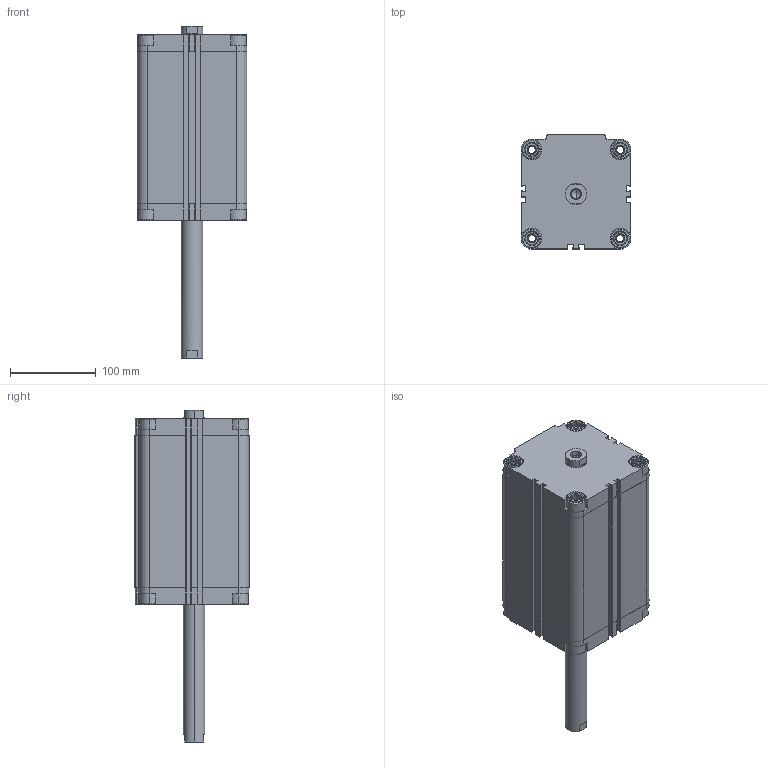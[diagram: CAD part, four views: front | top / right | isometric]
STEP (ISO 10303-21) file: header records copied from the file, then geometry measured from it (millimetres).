
FILE_DESCRIPTION (( 'STEP AP203' ), '1' );
FILE_NAME ('CDVU100-150F-P.STEP', '2020-07-24T18:43:32', ( '' ), ( '' ), 'SwSTEP 2.0', 'SolidWorks 2019', '' );
FILE_SCHEMA (( 'CONFIG_CONTROL_DESIGN' ));
Length unit declared in the file: millimetre
Products named in the file (1): CDVU100-150F-P
Bounding box: 128 x 133 x 386.5 mm (x, y, z)
Volume: 2369532.4 mm3; surface area: 322616.8 mm2
Topology: 2 solids, 2 shells, 670 faces, 1812 edges, 1188 vertices
Faces by surface type: plane 394, cylinder 212, cone 64
Entity records: 21267 total; most frequent: CARTESIAN_POINT 4239, ORIENTED_EDGE 3608, DIRECTION 3458, EDGE_CURVE 1804, VERTEX_POINT 1188, AXIS2_PLACEMENT_3D 1175, VECTOR 1108, LINE 1108
